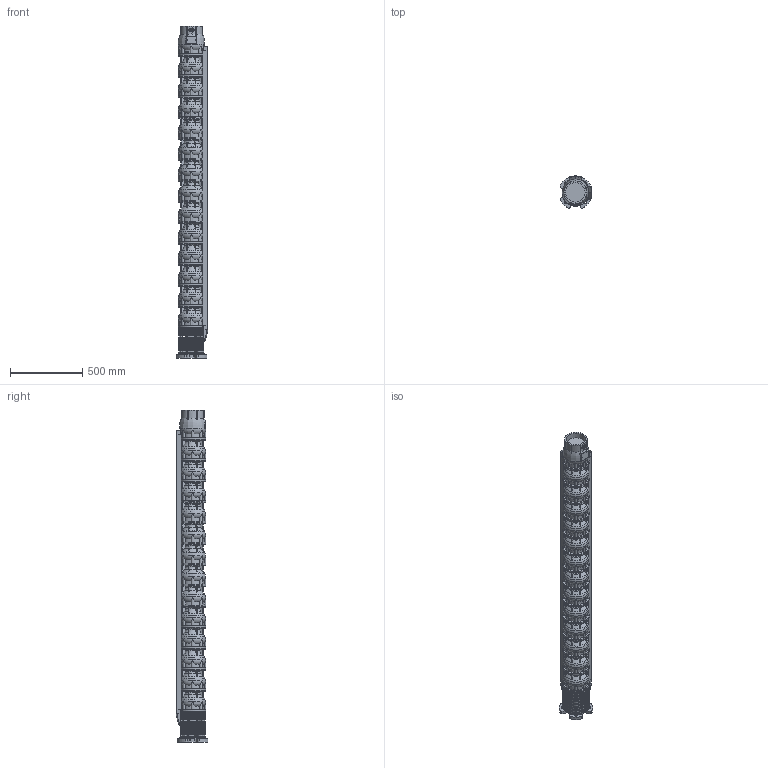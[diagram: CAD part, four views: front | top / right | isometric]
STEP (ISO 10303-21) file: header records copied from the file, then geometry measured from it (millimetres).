
FILE_DESCRIPTION(/* description */ ('Unknown'),/* implementation_level */ '2;1');
FILE_NAME(/* name */ 'VSI134-13_WR_M10-50_SME',/* time_stamp */ '2023-09-14T14:59:13+02:00',/* author */ ('Unknown'),/* organization */ ('Unknown'),/* preprocessor_version */ 'ST-DEVELOPER v18.102',/* originating_system */ 'Solid Edge',/* authorisation */ 'Unknown');
FILE_SCHEMA (('INTEGRATED_CNC_SCHEMA','AUTOMOTIVE_DESIGN {1 0 10303 214 3 1 1}'));
Products named in the file (12): VSI134-13_WR_M10-50_SME; VSI134_testata; VSI134_diffusore; VSI134_supporto_8×8; VSI134_adattatore_8×10; VSI134_filtro_A; VSI134_filtro_B; VSI134_terminale_top_copricavo_medio; VSI134_terminale_bottom_copricavo_medio; M5X8_UNI7687; MID 134-13; VSI134_giunto_8×10
Assembly tree (37 placements, depth 2):
  VSI134-13_WR_M10-50_SME
    VSI134_testata
    VSI134_diffusore  x13
    VSI134_supporto_8×8
    VSI134_adattatore_8×10
    VSI134_filtro_A
    VSI134_filtro_B
    VSI134_terminale_top_copricavo_medio  x2
    VSI134_terminale_bottom_copricavo_medio  x2
    M5X8_UNI7687  x12
    MID 134-13  x2
    VSI134_giunto_8×10
Bounding box: 221.78 x 221.78 x 2303 mm (x, y, z)
Volume: 42748201.9 mm3; surface area: 3901117.7 mm2
Topology: 76 solids, 78 shells, 4787 faces, 13453 edges, 8981 vertices
Faces by surface type: plane 3426, cylinder 631, torus 615, cone 70, bspline 31, sphere 14
Full cylindrical faces by diameter (mm): 2.4 x2, 3 x2, 4.2 x16, 5 x12, 5.5 x8, 14 x4, 16 x4, 17.5 x4, 26 x1, 30 x4, 44 x1, 65 x1, 69 x1, 74 x1, 84 x1, 98 x1, 127 x2, 135.472 x1, 157 x1, 182 x14
Entity records: 85379 total; most frequent: CARTESIAN_POINT 18302, ORIENTED_EDGE 13946, DIRECTION 13468, EDGE_CURVE 6973, VERTEX_POINT 4707, AXIS2_PLACEMENT_3D 4612, LINE 4244, VECTOR 4244
